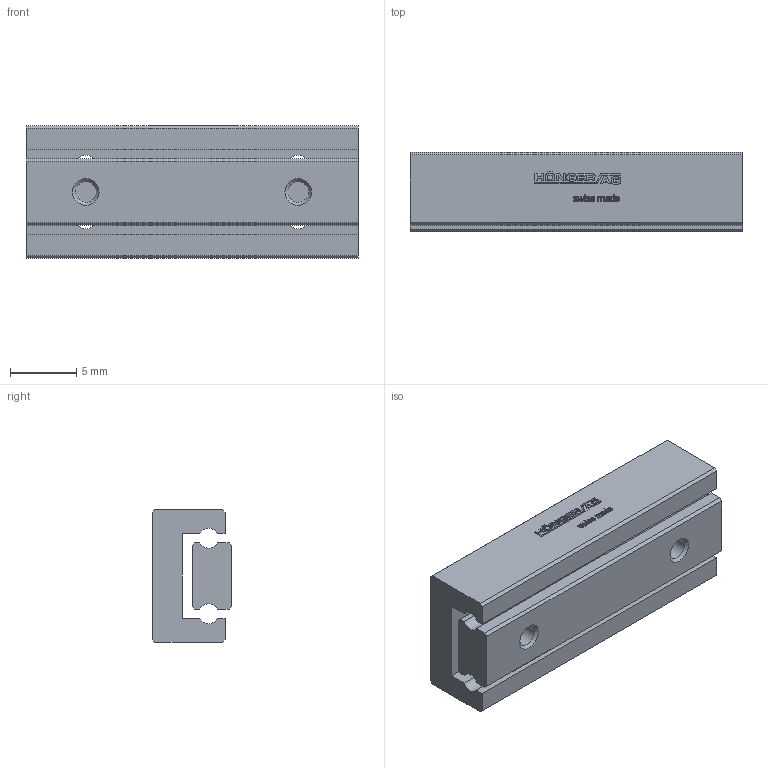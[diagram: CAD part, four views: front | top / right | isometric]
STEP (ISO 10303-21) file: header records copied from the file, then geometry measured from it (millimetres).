
FILE_DESCRIPTION(/* description */ ('STEP AP214'),/* implementation_level */ '2;1');
FILE_NAME(/* name */ 'NDN 1-25.15(0)',/* time_stamp */ '2025-04-16T17:09:27+02:00',/* author */ ('License CC BY-ND 4.0'),/* organization */ ('CADENAS'),/* preprocessor_version */ 'ST-DEVELOPER v19.3',/* originating_system */ 'PARTsolutions',/* authorisation */ ' ');
FILE_SCHEMA (('AUTOMOTIVE_DESIGN {1 0 10303 214 3 1 1}'));
Length unit declared in the file: millimetre
Products named in the file (3): NDN 1-25.15(0); NDN 1-25.15_1; NDN 1-25.15_2
Assembly tree (2 placements, depth 2):
  NDN 1-25.15(0)
    NDN 1-25.15_1
    NDN 1-25.15_2
Bounding box: 25 x 6 x 10 mm (x, y, z)
Volume: 1157.5 mm3; surface area: 1498.4 mm2
Topology: 2 solids, 2 shells, 511 faces, 1432 edges, 952 vertices
Faces by surface type: cylinder 302, plane 201, cone 8
Full cylindrical faces by diameter (mm): 1.567 x6
Entity records: 16723 total; most frequent: DIRECTION 3058, CARTESIAN_POINT 2884, ORIENTED_EDGE 2836, EDGE_CURVE 1418, AXIS2_PLACEMENT_3D 1126, VERTEX_POINT 952, LINE 806, VECTOR 806
